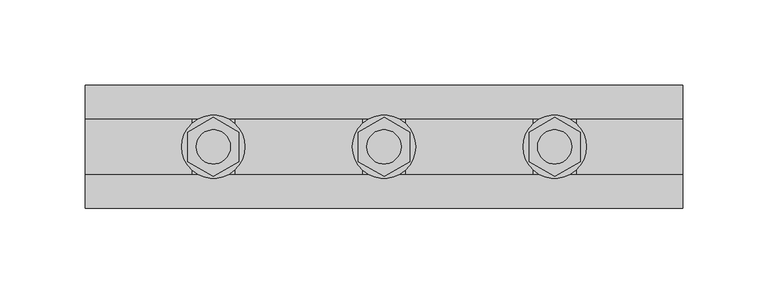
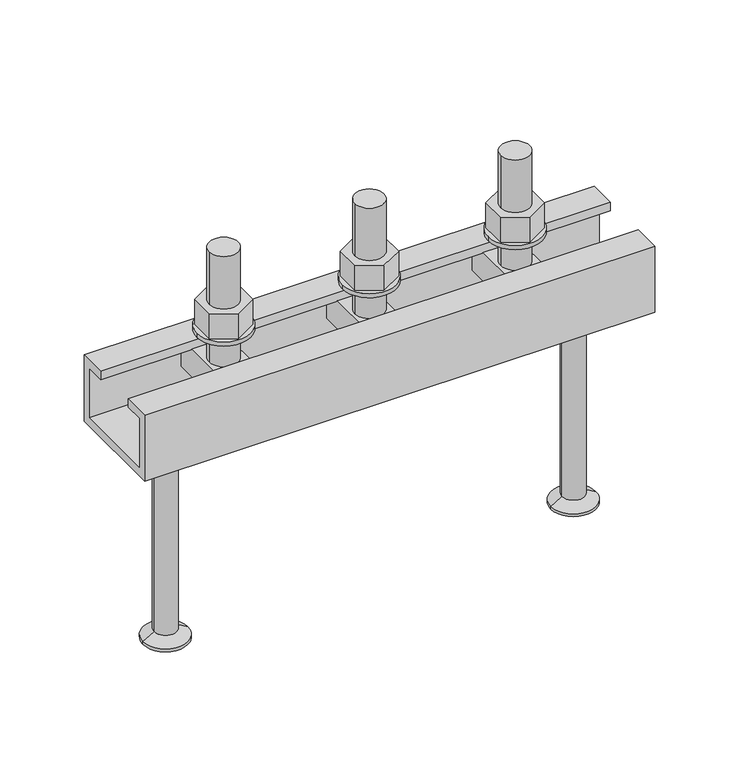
"""IFC4 building model written with IfcOpenShell, lengths in millimetres: fastener geometry, JTA-K JORDAHL® AnchorChannels : JTA-K L=350 mm."""

from ifc_helpers import new_model, si_unit, point, frame, frame_2d, origin, place, context, project, spatial, polyline, circle_curve, trimmed, segment, composite_curve, outline, extrude, source, transform, mapped, element, save
from ifc_brep_helpers import plane_surface, cylinder_surface, revolved_surface, advanced_brep


def fastener_1148fff7(model_context):
    return source(origin(), model_context, "Body", "SolidModel", [
        extrude(outline(polyline([(175.0, -17.3205081), (160.0, -8.660254), (160.0, 8.660254), (175.0, 17.3205081), (190.0, 8.660254), (190.0, -8.660254), (175.0, -17.3205081)]), holes=[composite_curve([segment(trimmed(circle_curve(frame_2d((175.0, 0.0)), 10.0), [point((165.0, 0.0))], [point((185.0, 0.0))], True, "CARTESIAN"), True, "CONTINUOUS"), segment(trimmed(circle_curve(frame_2d((175.0, 0.0)), 10.0), [point((185.0, 0.0))], [point((165.0, 0.0))], True, "CARTESIAN"), True, "CONTINUOUS")], self_intersect=False)]), frame((0.0, 0.0, 18.0), z_axis=(0.0, 0.0, 1.0), x_axis=(1.0, 0.0, 0.0)), (0.0, 0.0, 1.0), 18.0),
        extrude(outline(composite_curve([segment(trimmed(circle_curve(frame_2d((175.0, 0.0)), 18.5), [point((156.5, 0.0))], [point((193.5, 0.0))], False, "CARTESIAN"), True, "CONTINUOUS"), segment(trimmed(circle_curve(frame_2d((175.0, 0.0)), 18.5), [point((193.5, 0.0))], [point((156.5, 0.0))], False, "CARTESIAN"), True, "CONTINUOUS")], self_intersect=False), holes=[composite_curve([segment(trimmed(circle_curve(frame_2d((175.0, 0.0)), 10.5), [point((164.5, 0.0))], [point((185.5, 0.0))], True, "CARTESIAN"), True, "CONTINUOUS"), segment(trimmed(circle_curve(frame_2d((175.0, 0.0)), 10.5), [point((185.5, 0.0))], [point((164.5, 0.0))], True, "CARTESIAN"), True, "CONTINUOUS")], self_intersect=False)]), frame((0.0, 0.0, 15.0), z_axis=(0.0, 0.0, 1.0), x_axis=(1.0, 0.0, 0.0)), (0.0, 0.0, 1.0), 3.0),
        advanced_brep(
        [(187.5, -29.0, -6.0), (187.5, -29.0, -26.0), (187.5, 29.0, -26.0), (187.5, 29.0, -6.0), (162.5, -29.0, -6.0), (162.5, 29.0, -6.0), (162.5, 29.0, -26.0), (162.5, -29.0, -26.0), (185.0, 0.0, -6.0), (165.0, 0.0, -6.0), (165.0, 0.0, 74.0), (185.0, 0.0, 74.0)],
        [
            (0, 1),
            (1, 2),
            (2, 3),
            (3, 0),
            (4, 5),
            (5, 6),
            (6, 7),
            (7, 4),
            (3, 5),
            (4, 0),
            (8, 9, circle_curve(frame((175.0, 0.0, -6.0), z_axis=(0.0, 0.0, -1.0), x_axis=(1.0, 0.0, 0.0)), 10.0)),
            (9, 8, circle_curve(frame((175.0, 0.0, -6.0), z_axis=(0.0, 0.0, -1.0), x_axis=(1.0, 0.0, 0.0)), 10.0)),
            (2, 6),
            (1, 7),
            (10, 11, circle_curve(frame((175.0, 0.0, 74.0), z_axis=(0.0, 0.0, 1.0), x_axis=(1.0, 0.0, 0.0)), 10.0)),
            (11, 10, circle_curve(frame((175.0, 0.0, 74.0), z_axis=(0.0, 0.0, 1.0), x_axis=(1.0, 0.0, 0.0)), 10.0)),
            (11, 8),
            (9, 10),
        ],
        [
            plane_surface(frame((187.5, 29.0, -6.0), z_axis=(1.0, 0.0, 0.0), x_axis=(0.0, 1.0, 0.0))),
            plane_surface(frame((162.5, 29.0, -6.0), z_axis=(-1.0, 0.0, 0.0), x_axis=(0.0, -1.0, 0.0))),
            plane_surface(frame((187.5, -29.0, -6.0), z_axis=(0.0, 0.0, 1.0), x_axis=(-1.0, 0.0, 0.0))),
            plane_surface(frame((187.5, 29.0, -6.0), z_axis=(0.0, 1.0, 0.0), x_axis=(-1.0, 0.0, 0.0))),
            plane_surface(frame((187.5, 29.0, -26.0), z_axis=(0.0, 0.0, -1.0), x_axis=(-1.0, 0.0, 0.0))),
            plane_surface(frame((187.5, -29.0, -26.0), z_axis=(0.0, -1.0, 0.0), x_axis=(-1.0, 0.0, 0.0))),
            plane_surface(frame((185.0, 0.0, 74.0), z_axis=(0.0, 0.0, 1.0), x_axis=(0.0, -1.0, 0.0))),
            cylinder_surface(frame((175.0, 0.0, -6.0), z_axis=(0.0, 0.0, 1.0), x_axis=(1.0, 0.0, 0.0)), 10.0),
        ],
        [
            (0, [[1, 2, 3, 4]]),
            (1, [[5, 6, 7, 8]]),
            (2, [[9, -5, 10, -4], [11, 12]]),
            (3, [[13, -6, -9, -3]]),
            (4, [[14, -7, -13, -2]]),
            (5, [[-10, -8, -14, -1]]),
            (6, [[15, 16]]),
            (7, [[17, -12, 18, -16]]),
            (7, [[-18, -11, -17, -15]]),
        ],
    ),
        extrude(outline(polyline([(275.0, -17.3205081), (260.0, -8.660254), (260.0, 8.660254), (275.0, 17.3205081), (290.0, 8.660254), (290.0, -8.660254), (275.0, -17.3205081)]), holes=[composite_curve([segment(trimmed(circle_curve(frame_2d((275.0, 0.0)), 10.0), [point((265.0, 0.0))], [point((285.0, 0.0))], True, "CARTESIAN"), True, "CONTINUOUS"), segment(trimmed(circle_curve(frame_2d((275.0, 0.0)), 10.0), [point((285.0, 0.0))], [point((265.0, 0.0))], True, "CARTESIAN"), True, "CONTINUOUS")], self_intersect=False)]), frame((0.0, 0.0, 18.0), z_axis=(0.0, 0.0, 1.0), x_axis=(1.0, 0.0, 0.0)), (0.0, 0.0, 1.0), 18.0),
        extrude(outline(composite_curve([segment(trimmed(circle_curve(frame_2d((275.0, 0.0)), 18.5), [point((256.5, 0.0))], [point((293.5, 0.0))], False, "CARTESIAN"), True, "CONTINUOUS"), segment(trimmed(circle_curve(frame_2d((275.0, 0.0)), 18.5), [point((293.5, 0.0))], [point((256.5, 0.0))], False, "CARTESIAN"), True, "CONTINUOUS")], self_intersect=False), holes=[composite_curve([segment(trimmed(circle_curve(frame_2d((275.0, 0.0)), 10.5), [point((264.5, 0.0))], [point((285.5, 0.0))], True, "CARTESIAN"), True, "CONTINUOUS"), segment(trimmed(circle_curve(frame_2d((275.0, 0.0)), 10.5), [point((285.5, 0.0))], [point((264.5, 0.0))], True, "CARTESIAN"), True, "CONTINUOUS")], self_intersect=False)]), frame((0.0, 0.0, 15.0), z_axis=(0.0, 0.0, 1.0), x_axis=(1.0, 0.0, 0.0)), (0.0, 0.0, 1.0), 3.0),
        extrude(outline(polyline([(75.0, -17.3205081), (60.0, -8.660254), (60.0, 8.660254), (75.0, 17.3205081), (90.0, 8.660254), (90.0, -8.660254), (75.0, -17.3205081)]), holes=[composite_curve([segment(trimmed(circle_curve(frame_2d((75.0, 0.0)), 10.0), [point((65.0, 0.0))], [point((85.0, 0.0))], True, "CARTESIAN"), True, "CONTINUOUS"), segment(trimmed(circle_curve(frame_2d((75.0, 0.0)), 10.0), [point((85.0, 0.0))], [point((65.0, 0.0))], True, "CARTESIAN"), True, "CONTINUOUS")], self_intersect=False)]), frame((0.0, 0.0, 18.0), z_axis=(0.0, 0.0, 1.0), x_axis=(1.0, 0.0, 0.0)), (0.0, 0.0, 1.0), 18.0),
        extrude(outline(composite_curve([segment(trimmed(circle_curve(frame_2d((75.0, 0.0)), 18.5), [point((56.5, 0.0))], [point((93.5, 0.0))], False, "CARTESIAN"), True, "CONTINUOUS"), segment(trimmed(circle_curve(frame_2d((75.0, 0.0)), 18.5), [point((93.5, 0.0))], [point((56.5, 0.0))], False, "CARTESIAN"), True, "CONTINUOUS")], self_intersect=False), holes=[composite_curve([segment(trimmed(circle_curve(frame_2d((75.0, 0.0)), 10.5), [point((64.5, 0.0))], [point((85.5, 0.0))], True, "CARTESIAN"), True, "CONTINUOUS"), segment(trimmed(circle_curve(frame_2d((75.0, 0.0)), 10.5), [point((85.5, 0.0))], [point((64.5, 0.0))], True, "CARTESIAN"), True, "CONTINUOUS")], self_intersect=False)]), frame((0.0, 0.0, 15.0), z_axis=(0.0, 0.0, 1.0), x_axis=(1.0, 0.0, 0.0)), (0.0, 0.0, 1.0), 3.0),
        advanced_brep(
        [(287.5, -29.0, -6.0), (287.5, -29.0, -26.0), (287.5, 29.0, -26.0), (287.5, 29.0, -6.0), (262.5, -29.0, -6.0), (262.5, 29.0, -6.0), (262.5, 29.0, -26.0), (262.5, -29.0, -26.0), (285.0, 0.0, -6.0), (265.0, 0.0, -6.0), (265.0, 0.0, 74.0), (285.0, 0.0, 74.0)],
        [
            (0, 1),
            (1, 2),
            (2, 3),
            (3, 0),
            (4, 5),
            (5, 6),
            (6, 7),
            (7, 4),
            (3, 5),
            (4, 0),
            (8, 9, circle_curve(frame((275.0, 0.0, -6.0), z_axis=(0.0, 0.0, -1.0), x_axis=(1.0, 0.0, 0.0)), 10.0)),
            (9, 8, circle_curve(frame((275.0, 0.0, -6.0), z_axis=(0.0, 0.0, -1.0), x_axis=(1.0, 0.0, 0.0)), 10.0)),
            (2, 6),
            (1, 7),
            (10, 11, circle_curve(frame((275.0, 0.0, 74.0), z_axis=(0.0, 0.0, 1.0), x_axis=(1.0, 0.0, 0.0)), 10.0)),
            (11, 10, circle_curve(frame((275.0, 0.0, 74.0), z_axis=(0.0, 0.0, 1.0), x_axis=(1.0, 0.0, 0.0)), 10.0)),
            (11, 8),
            (9, 10),
        ],
        [
            plane_surface(frame((287.5, 29.0, -6.0), z_axis=(1.0, 0.0, 0.0), x_axis=(0.0, 1.0, 0.0))),
            plane_surface(frame((262.5, 29.0, -6.0), z_axis=(-1.0, 0.0, 0.0), x_axis=(0.0, -1.0, 0.0))),
            plane_surface(frame((287.5, -29.0, -6.0), z_axis=(0.0, 0.0, 1.0), x_axis=(-1.0, 0.0, 0.0))),
            plane_surface(frame((287.5, 29.0, -6.0), z_axis=(0.0, 1.0, 0.0), x_axis=(-1.0, 0.0, 0.0))),
            plane_surface(frame((287.5, 29.0, -26.0), z_axis=(0.0, 0.0, -1.0), x_axis=(-1.0, 0.0, 0.0))),
            plane_surface(frame((287.5, -29.0, -26.0), z_axis=(0.0, -1.0, 0.0), x_axis=(-1.0, 0.0, 0.0))),
            plane_surface(frame((285.0, 0.0, 74.0), z_axis=(0.0, 0.0, 1.0), x_axis=(0.0, -1.0, 0.0))),
            cylinder_surface(frame((275.0, 0.0, -6.0), z_axis=(0.0, 0.0, 1.0), x_axis=(1.0, 0.0, 0.0)), 10.0),
        ],
        [
            (0, [[1, 2, 3, 4]]),
            (1, [[5, 6, 7, 8]]),
            (2, [[9, -5, 10, -4], [11, 12]]),
            (3, [[13, -6, -9, -3]]),
            (4, [[14, -7, -13, -2]]),
            (5, [[-10, -8, -14, -1]]),
            (6, [[15, 16]]),
            (7, [[17, -12, 18, -16]]),
            (7, [[-18, -11, -17, -15]]),
        ],
    ),
        advanced_brep(
        [(87.5, -29.0, -6.0), (87.5, -29.0, -26.0), (87.5, 29.0, -26.0), (87.5, 29.0, -6.0), (62.5, -29.0, -6.0), (62.5, 29.0, -6.0), (62.5, 29.0, -26.0), (62.5, -29.0, -26.0), (85.0, 0.0, -6.0), (65.0, 0.0, -6.0), (65.0, 0.0, 74.0), (85.0, 0.0, 74.0)],
        [
            (0, 1),
            (1, 2),
            (2, 3),
            (3, 0),
            (4, 5),
            (5, 6),
            (6, 7),
            (7, 4),
            (3, 5),
            (4, 0),
            (8, 9, circle_curve(frame((75.0, 0.0, -6.0), z_axis=(0.0, 0.0, -1.0), x_axis=(1.0, 0.0, 0.0)), 10.0)),
            (9, 8, circle_curve(frame((75.0, 0.0, -6.0), z_axis=(0.0, 0.0, -1.0), x_axis=(1.0, 0.0, 0.0)), 10.0)),
            (2, 6),
            (1, 7),
            (10, 11, circle_curve(frame((75.0, 0.0, 74.0), z_axis=(0.0, 0.0, 1.0), x_axis=(1.0, 0.0, 0.0)), 10.0)),
            (11, 10, circle_curve(frame((75.0, 0.0, 74.0), z_axis=(0.0, 0.0, 1.0), x_axis=(1.0, 0.0, 0.0)), 10.0)),
            (11, 8),
            (9, 10),
        ],
        [
            plane_surface(frame((87.5, 29.0, -6.0), z_axis=(1.0, 0.0, 0.0), x_axis=(0.0, 1.0, 0.0))),
            plane_surface(frame((62.5, 29.0, -6.0), z_axis=(-1.0, 0.0, 0.0), x_axis=(0.0, -1.0, 0.0))),
            plane_surface(frame((87.5, -29.0, -6.0), z_axis=(0.0, 0.0, 1.0), x_axis=(-1.0, 0.0, 0.0))),
            plane_surface(frame((87.5, 29.0, -6.0), z_axis=(0.0, 1.0, 0.0), x_axis=(-1.0, 0.0, 0.0))),
            plane_surface(frame((87.5, 29.0, -26.0), z_axis=(0.0, 0.0, -1.0), x_axis=(-1.0, 0.0, 0.0))),
            plane_surface(frame((87.5, -29.0, -26.0), z_axis=(0.0, -1.0, 0.0), x_axis=(-1.0, 0.0, 0.0))),
            plane_surface(frame((85.0, 0.0, 74.0), z_axis=(0.0, 0.0, 1.0), x_axis=(0.0, -1.0, 0.0))),
            cylinder_surface(frame((75.0, 0.0, -6.0), z_axis=(0.0, 0.0, 1.0), x_axis=(1.0, 0.0, 0.0)), 10.0),
        ],
        [
            (0, [[1, 2, 3, 4]]),
            (1, [[5, 6, 7, 8]]),
            (2, [[9, -5, 10, -4], [11, 12]]),
            (3, [[13, -6, -9, -3]]),
            (4, [[14, -7, -13, -2]]),
            (5, [[-10, -8, -14, -1]]),
            (6, [[15, 16]]),
            (7, [[17, -12, 18, -16]]),
            (7, [[-18, -11, -17, -15]]),
        ],
    ),
        advanced_brep(
        [(315.0, 0.0, -48.0), (292.0, 0.0, -48.0), (338.0, 0.0, -48.0), (299.5, 0.0, -195.0), (315.0, 0.0, -195.0), (330.5, 0.0, -195.0), (299.5, 0.0, -193.0), (330.5, 0.0, -193.0), (307.2, 0.0, -188.5544029), (322.8, 0.0, -188.5544029), (307.2, 0.0, -52.0), (322.8, 0.0, -52.0)],
        [
            (0, 1),
            (1, 2, circle_curve(frame((315.0, 0.0, -48.0), z_axis=(0.0, 0.0, 1.0), x_axis=(1.0, 0.0, 0.0)), 23.0)),
            (2, 0),
            (2, 1, circle_curve(frame((315.0, 0.0, -48.0), z_axis=(0.0, 0.0, 1.0), x_axis=(1.0, 0.0, 0.0)), 23.0)),
            (3, 4),
            (4, 5),
            (5, 3, circle_curve(frame((315.0, 0.0, -195.0), z_axis=(0.0, 0.0, -1.0), x_axis=(1.0, 0.0, 0.0)), 15.5)),
            (3, 5, circle_curve(frame((315.0, 0.0, -195.0), z_axis=(0.0, 0.0, -1.0), x_axis=(1.0, 0.0, 0.0)), 15.5)),
            (6, 3),
            (5, 7),
            (7, 6, circle_curve(frame((315.0, 0.0, -193.0), z_axis=(0.0, 0.0, -1.0), x_axis=(1.0, 0.0, 0.0)), 15.5)),
            (6, 7, circle_curve(frame((315.0, 0.0, -193.0), z_axis=(0.0, 0.0, -1.0), x_axis=(1.0, 0.0, 0.0)), 15.5)),
            (8, 6),
            (7, 9),
            (9, 8, circle_curve(frame((315.0, 0.0, -188.5544029), z_axis=(0.0, 0.0, -1.0), x_axis=(1.0, 0.0, 0.0)), 7.8)),
            (8, 9, circle_curve(frame((315.0, 0.0, -188.5544029), z_axis=(0.0, 0.0, -1.0), x_axis=(1.0, 0.0, 0.0)), 7.8)),
            (10, 8),
            (9, 11),
            (11, 10, circle_curve(frame((315.0, 0.0, -52.0), z_axis=(0.0, 0.0, -1.0), x_axis=(1.0, 0.0, 0.0)), 7.8)),
            (10, 11, circle_curve(frame((315.0, 0.0, -52.0), z_axis=(0.0, 0.0, -1.0), x_axis=(1.0, 0.0, 0.0)), 7.8)),
            (1, 10),
            (11, 2),
        ],
        [
            plane_surface(frame((315.0, 0.0, -48.0), z_axis=(0.0, 0.0, 1.0), x_axis=(1.0, 0.0, 0.0))),
            plane_surface(frame((315.0, 0.0, -195.0), z_axis=(0.0, 0.0, -1.0), x_axis=(1.0, 0.0, 0.0))),
            cylinder_surface(frame((315.0, 0.0, 2361.3150031), z_axis=(0.0, 0.0, 1.0), x_axis=(1.0, 0.0, 0.0)), 15.5),
            revolved_surface(polyline([(330.5, 0.0, -193.0), (322.8, 0.0, -188.5544029)]), (315.0, 0.0, 2361.3150031), (0.0, 0.0, 1.0)),
            cylinder_surface(frame((315.0, 0.0, 2361.3150031), z_axis=(0.0, 0.0, 1.0), x_axis=(1.0, 0.0, 0.0)), 7.8),
            revolved_surface(polyline([(322.8, 0.0, -52.0), (338.0, 0.0, -48.0)]), (315.0, 0.0, 2361.3150031), (0.0, 0.0, 1.0)),
        ],
        [
            (0, [[1, 2, 3]]),
            (0, [[-3, 4, -1]]),
            (1, [[5, 6, 7]]),
            (1, [[-6, -5, 8]]),
            (2, [[9, -7, 10, 11]]),
            (2, [[-10, -8, -9, 12]]),
            (3, [[13, -11, 14, 15]]),
            (3, [[-14, -12, -13, 16]]),
            (4, [[17, -15, 18, 19]]),
            (4, [[-18, -16, -17, 20]]),
            (5, [[21, -19, 22, -2]]),
            (5, [[-22, -20, -21, -4]]),
        ],
    ),
        advanced_brep(
        [(35.0, 0.0, -48.0), (12.0, 0.0, -48.0), (58.0, 0.0, -48.0), (19.5, 0.0, -195.0), (35.0, 0.0, -195.0), (50.5, 0.0, -195.0), (19.5, 0.0, -193.0), (50.5, 0.0, -193.0), (27.2, 0.0, -188.5544029), (42.8, 0.0, -188.5544029), (27.2, 0.0, -52.0), (42.8, 0.0, -52.0)],
        [
            (0, 1),
            (1, 2, circle_curve(frame((35.0, 0.0, -48.0), z_axis=(0.0, 0.0, 1.0), x_axis=(1.0, 0.0, 0.0)), 23.0)),
            (2, 0),
            (2, 1, circle_curve(frame((35.0, 0.0, -48.0), z_axis=(0.0, 0.0, 1.0), x_axis=(1.0, 0.0, 0.0)), 23.0)),
            (3, 4),
            (4, 5),
            (5, 3, circle_curve(frame((35.0, 0.0, -195.0), z_axis=(0.0, 0.0, -1.0), x_axis=(1.0, 0.0, 0.0)), 15.5)),
            (3, 5, circle_curve(frame((35.0, 0.0, -195.0), z_axis=(0.0, 0.0, -1.0), x_axis=(1.0, 0.0, 0.0)), 15.5)),
            (6, 3),
            (5, 7),
            (7, 6, circle_curve(frame((35.0, 0.0, -193.0), z_axis=(0.0, 0.0, -1.0), x_axis=(1.0, 0.0, 0.0)), 15.5)),
            (6, 7, circle_curve(frame((35.0, 0.0, -193.0), z_axis=(0.0, 0.0, -1.0), x_axis=(1.0, 0.0, 0.0)), 15.5)),
            (8, 6),
            (7, 9),
            (9, 8, circle_curve(frame((35.0, 0.0, -188.5544029), z_axis=(0.0, 0.0, -1.0), x_axis=(1.0, 0.0, 0.0)), 7.8)),
            (8, 9, circle_curve(frame((35.0, 0.0, -188.5544029), z_axis=(0.0, 0.0, -1.0), x_axis=(1.0, 0.0, 0.0)), 7.8)),
            (10, 8),
            (9, 11),
            (11, 10, circle_curve(frame((35.0, 0.0, -52.0), z_axis=(0.0, 0.0, -1.0), x_axis=(1.0, 0.0, 0.0)), 7.8)),
            (10, 11, circle_curve(frame((35.0, 0.0, -52.0), z_axis=(0.0, 0.0, -1.0), x_axis=(1.0, 0.0, 0.0)), 7.8)),
            (1, 10),
            (11, 2),
        ],
        [
            plane_surface(frame((35.0, 0.0, -48.0), z_axis=(0.0, 0.0, 1.0), x_axis=(1.0, 0.0, 0.0))),
            plane_surface(frame((35.0, 0.0, -195.0), z_axis=(0.0, 0.0, -1.0), x_axis=(1.0, 0.0, 0.0))),
            cylinder_surface(frame((35.0, 0.0, 2361.3150031), z_axis=(0.0, 0.0, 1.0), x_axis=(1.0, 0.0, 0.0)), 15.5),
            revolved_surface(polyline([(50.5, 0.0, -193.0), (42.8, 0.0, -188.5544029)]), (35.0, 0.0, 2361.3150031), (0.0, 0.0, 1.0)),
            cylinder_surface(frame((35.0, 0.0, 2361.3150031), z_axis=(0.0, 0.0, 1.0), x_axis=(1.0, 0.0, 0.0)), 7.8),
            revolved_surface(polyline([(42.8, 0.0, -52.0), (58.0, 0.0, -48.0)]), (35.0, 0.0, 2361.3150031), (0.0, 0.0, 1.0)),
        ],
        [
            (0, [[1, 2, 3]]),
            (0, [[-3, 4, -1]]),
            (1, [[5, 6, 7]]),
            (1, [[-6, -5, 8]]),
            (2, [[9, -7, 10, 11]]),
            (2, [[-10, -8, -9, 12]]),
            (3, [[13, -11, 14, 15]]),
            (3, [[-14, -12, -13, 16]]),
            (4, [[17, -15, 18, 19]]),
            (4, [[-18, -16, -17, 20]]),
            (5, [[21, -19, 22, -2]]),
            (5, [[-22, -20, -21, -4]]),
        ],
    ),
        extrude(outline(polyline([(-36.0, 0.0), (-16.5, 0.0), (-16.5, -6.0), (-30.0, -6.0), (-30.0, -42.0), (30.0, -42.0), (30.0, -6.0), (16.5, -6.0), (16.5, 0.0), (36.0, 0.0), (36.0, -48.0), (-36.0, -48.0), (-36.0, 0.0)])), frame((0.0, 0.0, 0.0), z_axis=(1.0, 0.0, 0.0), x_axis=(0.0, 1.0, 0.0)), (0.0, 0.0, 1.0), 350.0),
    ])


if __name__ == "__main__":
    model = new_model("IFC4")
    model_context = context("Model", 3, world=origin())
    ifc_project = project(units=[si_unit("LENGTHUNIT", "METRE", prefix="MILLI")], contexts=[model_context])
    site = spatial("IfcSite", under=ifc_project)
    building = spatial("IfcBuilding", under=site)
    placement = place(None, origin())
    fastener_shape = fastener_1148fff7(model_context)
    element("IfcFastener", 1, ObjectType="JTA-K JORDAHL® AnchorChannels : JTA-K L=350 mm", at=placement, inside=building, context=model_context, shape_type="MappedRepresentation", body=[
        mapped(fastener_shape, transform((0.0, 0.0, 0.0), x_axis=(1.0, 0.0, 0.0), y_axis=(0.0, 1.0, 0.0), z_axis=(0.0, 0.0, 1.0))),
    ])
    save(model, "model.ifc")
